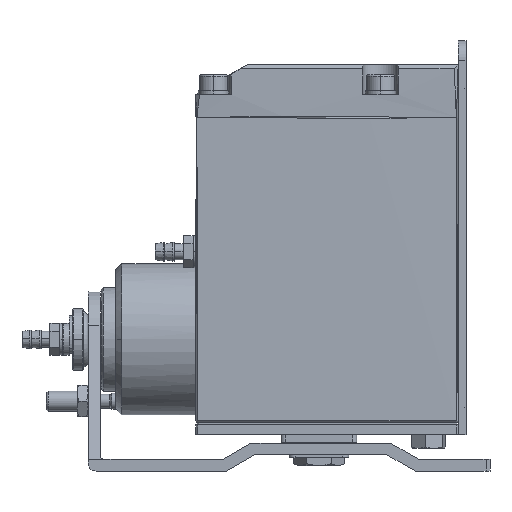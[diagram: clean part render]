
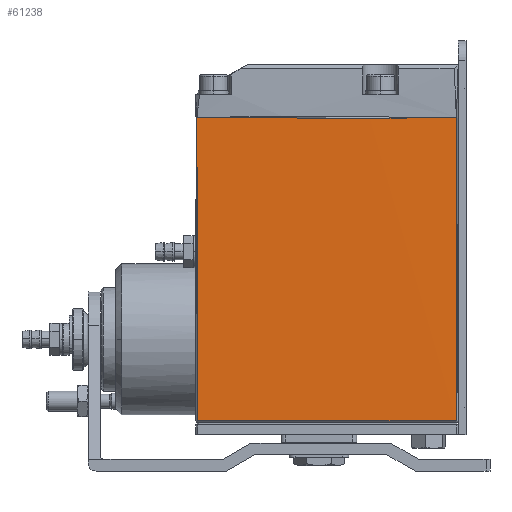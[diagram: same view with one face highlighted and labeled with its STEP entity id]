
A CAD part, left-side view. The second image highlights one B-rep face of the part: STEP entity #61238.
In plain terms, the highlighted planar face has unit normal (-1, 0, 0).
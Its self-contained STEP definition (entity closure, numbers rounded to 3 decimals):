
#3269 = DIRECTION ( 'NONE',  ( -1., 0., 0. ) ) ;
#5466 = CARTESIAN_POINT ( 'NONE',  ( 0., 65.5, 38.5 ) ) ;
#5521 = EDGE_CURVE ( 'NONE', #32720, #55806, #49741, .T. ) ;
#7939 = VECTOR ( 'NONE', #33861, 1000. ) ;
#8386 = CARTESIAN_POINT ( 'NONE',  ( 0., 0.5, 0.5 ) ) ;
#10220 = ORIENTED_EDGE ( 'NONE', *, *, #31375, .T. ) ;
#12487 = CARTESIAN_POINT ( 'NONE',  ( 0., 65.5, 0.5 ) ) ;
#13287 = VECTOR ( 'NONE', #44118, 1000. ) ;
#23521 = EDGE_LOOP ( 'NONE', ( #45994, #48177, #10220, #36147 ) ) ;
#26595 = FACE_OUTER_BOUND ( 'NONE', #23521, .T. ) ;
#26641 = VECTOR ( 'NONE', #48193, 1000. ) ;
#29159 = CARTESIAN_POINT ( 'NONE',  ( 0.45, 65.65, 76.8 ) ) ;
#29524 = VERTEX_POINT ( 'NONE', #29159 ) ;
#29785 = VERTEX_POINT ( 'NONE', #12487 ) ;
#31375 = EDGE_CURVE ( 'NONE', #55806, #29524, #53086, .T. ) ;
#32011 = CARTESIAN_POINT ( 'NONE',  ( 0., -6., -7.1 ) ) ;
#32720 = VERTEX_POINT ( 'NONE', #8386 ) ;
#33515 = LINE ( 'NONE', #5466, #7939 ) ;
#33861 = DIRECTION ( 'NONE',  ( 0., 0., -1. ) ) ;
#35156 = AXIS2_PLACEMENT_3D ( 'NONE', #32011, #3269, #36828 ) ;
#36147 = ORIENTED_EDGE ( 'NONE', *, *, #49235, .T. ) ;
#36828 = DIRECTION ( 'NONE',  ( 0., 0., 1. ) ) ;
#39266 = LINE ( 'NONE', #57894, #26641 ) ;
#39704 = CARTESIAN_POINT ( 'NONE',  ( 0.35, 0.45, 76.8 ) ) ;
#40561 = VECTOR ( 'NONE', #43143, 1000. ) ;
#43143 = DIRECTION ( 'NONE',  ( 0., 1., 0. ) ) ;
#44118 = DIRECTION ( 'NONE',  ( 0., 0., 1. ) ) ;
#44128 = CARTESIAN_POINT ( 'NONE',  ( 0., 0.5, 38.5 ) ) ;
#44689 = EDGE_CURVE ( 'NONE', #32720, #29785, #39266, .T. ) ;
#45994 = ORIENTED_EDGE ( 'NONE', *, *, #44689, .F. ) ;
#48177 = ORIENTED_EDGE ( 'NONE', *, *, #5521, .T. ) ;
#48193 = DIRECTION ( 'NONE',  ( 0., 1., 0. ) ) ;
#49235 = EDGE_CURVE ( 'NONE', #29524, #29785, #33515, .T. ) ;
#49741 = LINE ( 'NONE', #44128, #13287 ) ;
#50566 = PLANE ( 'NONE',  #35156 ) ;
#52013 = CARTESIAN_POINT ( 'NONE',  ( 0., 33., 76.5 ) ) ;
#53086 = LINE ( 'NONE', #52013, #40561 ) ;
#55806 = VERTEX_POINT ( 'NONE', #39704 ) ;
#57894 = CARTESIAN_POINT ( 'NONE',  ( 0., 33., 0.5 ) ) ;
#61238 = ADVANCED_FACE ( 'NONE', ( #26595 ), #50566, .T. ) ;
